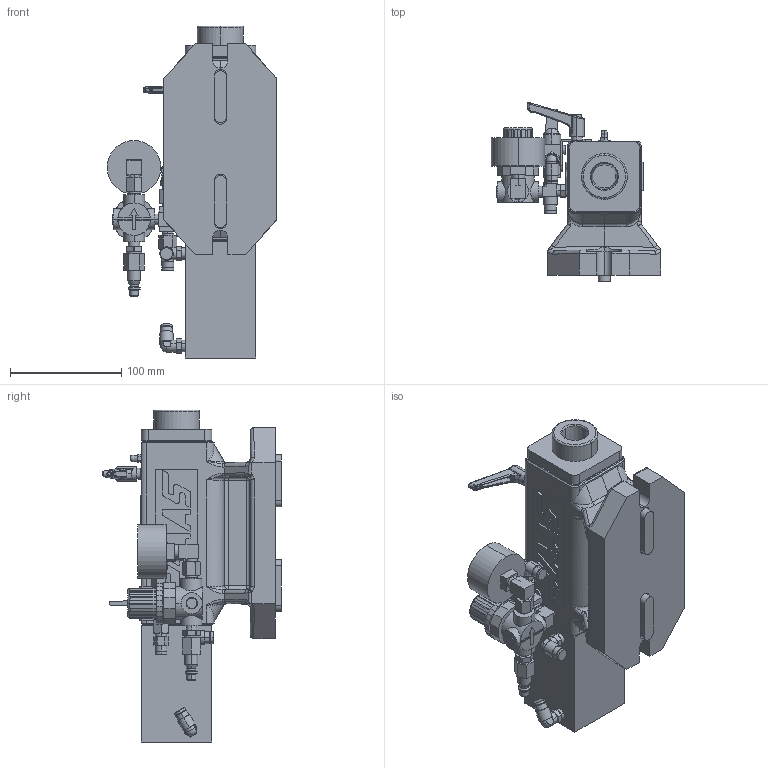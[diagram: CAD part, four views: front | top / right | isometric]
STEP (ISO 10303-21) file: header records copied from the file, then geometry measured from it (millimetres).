
FILE_DESCRIPTION (( 'STEP AP214' ), '1' );
FILE_NAME ('HPST3.5_STEP_2020-03.STEP', '2020-03-31T19:24:33', ( '' ), ( '' ), 'SwSTEP 2.0', 'SolidWorks 2019', '' );
FILE_SCHEMA (( 'AUTOMOTIVE_DESIGN' ));
Length unit declared in the file: inch
Products named in the file (1): HPST3.5_STEP_2020-03
Bounding box: 152.67 x 161.19 x 298.99 mm (x, y, z)
Volume: 1862126.3 mm3; surface area: 200329.4 mm2
Topology: 17 solids, 18 shells, 1020 faces, 2592 edges, 1657 vertices
Faces by surface type: plane 518, cylinder 337, bspline 70, cone 70, sphere 17, torus 8
Entity records: 38890 total; most frequent: CARTESIAN_POINT 11010, ORIENTED_EDGE 5164, DIRECTION 4860, EDGE_CURVE 2582, AXIS2_PLACEMENT_3D 1705, VERTEX_POINT 1654, VECTOR 1450, LINE 1450
